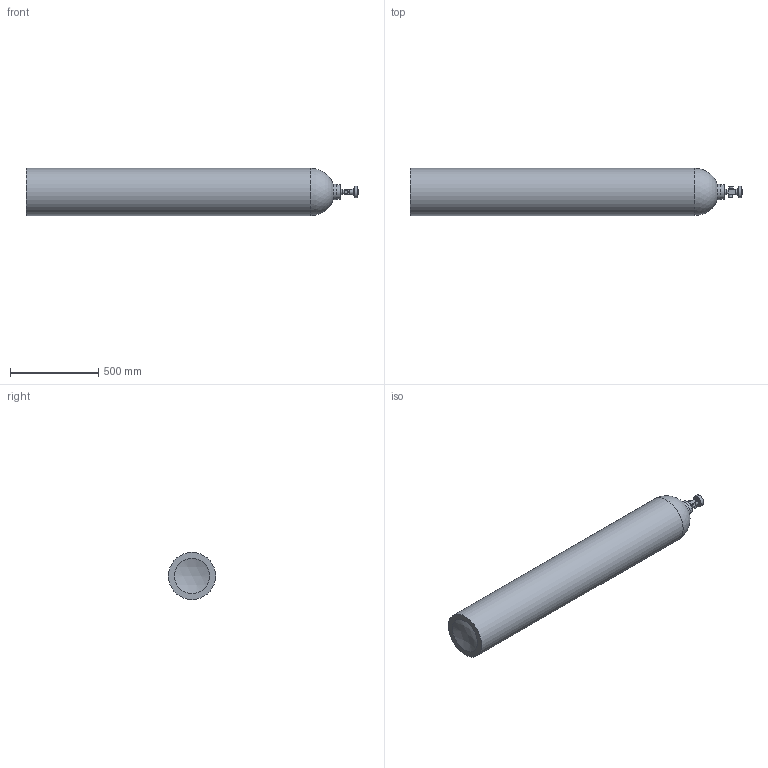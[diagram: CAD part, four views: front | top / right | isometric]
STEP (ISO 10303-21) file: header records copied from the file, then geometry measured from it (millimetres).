
FILE_DESCRIPTION(/* description */ ('xxxxxx'),/* implementation_level */ '2;1');
FILE_NAME(/* name */ 'H:\CAD Inventor\Simplified products for BIM\STP\200724 80-300.stp',/* time_stamp */ '2022-01-19T14:00:38+01:00',/* author */ ('nath'),/* organization */ (''),/* preprocessor_version */ 'ST-DEVELOPER v18.1',/* originating_system */ 'Autodesk Inventor 2022',/* authorisation */ '');
FILE_SCHEMA (('AUTOMOTIVE_DESIGN { 1 0 10303 214 3 1 1 }'));
Length unit declared in the file: millimetre
Products named in the file (1): 200724
Bounding box: 1880.7 x 267 x 267 mm (x, y, z)
Volume: 95390825.4 mm3; surface area: 1555046.4 mm2
Topology: 1 solids, 1 shells, 43 faces, 85 edges, 55 vertices
Faces by surface type: plane 20, cylinder 14, cone 6, sphere 2, bspline 1
Full cylindrical faces by diameter (mm): 8 x1, 13.8 x1, 20 x1, 22 x1, 23 x1, 24 x1, 25 x1, 28.8 x1, 31.3 x1, 36.5 x1, 65 x1, 80 x1, 90 x1, 267 x1
Entity records: 1273 total; most frequent: DIRECTION 214, CARTESIAN_POINT 214, ORIENTED_EDGE 170, AXIS2_PLACEMENT_3D 88, EDGE_CURVE 85, VERTEX_POINT 55, EDGE_LOOP 54, CIRCLE 45
